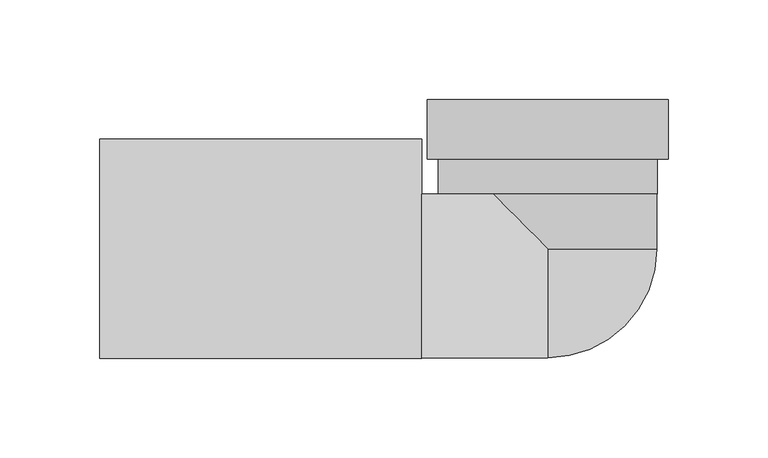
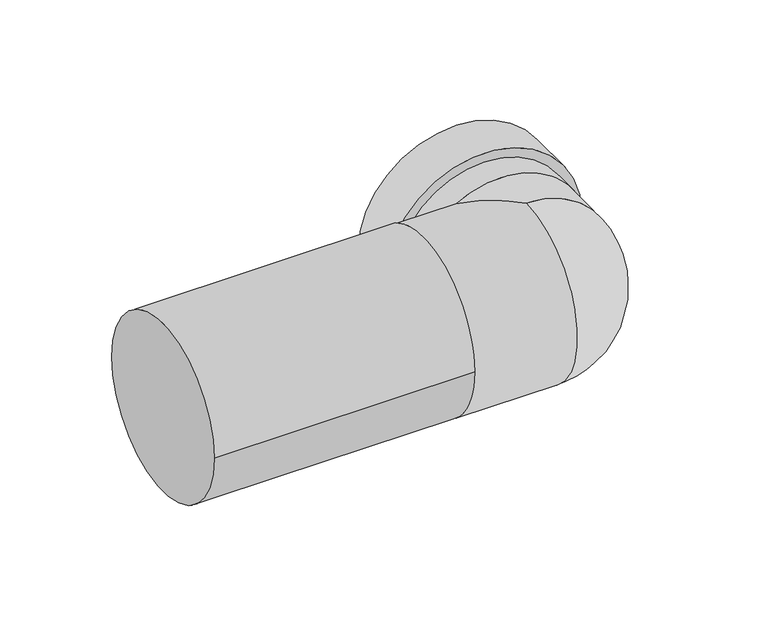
"""IFC4 building model written with IfcOpenShell, lengths in millimetres: pipe fitting geometry, NLRS_52_PIF_UN_PE aansluitbocht 90° voor wand-wc, met korte voorsprong_geb : DN90-100 / ø90-110."""

from ifc_helpers import new_model, si_unit, point, frame, origin, origin_2d, place, context, project, spatial, circle_curve, ellipse_curve, trimmed, segment, composite_curve, outline, extrude, source, transform, mapped, element, save
from ifc_brep_helpers import plane_surface, cylinder_surface, revolved_surface, advanced_brep


def pipe_fitting_5c974b61(model_context):
    return source(origin(), model_context, "Body", "SolidModel", [
        extrude(outline(composite_curve([segment(trimmed(circle_curve(origin_2d(), 60.5), [point((0.0, 60.5))], [point((0.0, -60.5))], False, "CARTESIAN"), True, "CONTINUOUS"), segment(trimmed(circle_curve(origin_2d(), 60.5), [point((0.0, -60.5))], [point((0.0, 60.5))], False, "CARTESIAN"), True, "CONTINUOUS")], self_intersect=False)), frame((0.0, 45.0, 0.0), z_axis=(0.0, 1.0, 0.0), x_axis=(0.0, 0.0, 1.0)), (0.0, 0.0, 1.0), 30.0),
        advanced_brep(
        [(-27.5, 27.5, -47.6313972), (-63.3333333, 27.5, -47.6313972), (-63.3333333, 27.5, 47.6313972), (-27.5, 27.5, 47.6313972), (-55.0, 27.5, 0.0), (0.0, 0.0, -55.0), (0.0, 0.0, 55.0), (-63.3333333, -55.0, 0.0), (55.0, 27.5, 0.0), (55.0, 45.0, 0.0), (-55.0, 45.0, 0.0), (-225.0, -55.0, 0.0), (-225.0, 55.0, 0.0), (-63.3333333, 55.0, 0.0)],
        [
            (0, 1),
            (1, 2),
            (2, 3),
            (3, 4, circle_curve(frame((0.0, 27.5, 0.0), z_axis=(0.0, -1.0, 0.0), x_axis=(-1.0, 0.0, 0.0)), 55.0)),
            (4, 0, circle_curve(frame((0.0, 27.5, 0.0), z_axis=(0.0, -1.0, 0.0), x_axis=(-1.0, 0.0, 0.0)), 55.0)),
            (0, 5, ellipse_curve(frame((0.0, 0.0, 0.0), z_axis=(-0.7071067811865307, -0.7071067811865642, 0.0), x_axis=(0.7071067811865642, -0.7071067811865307, 0.0)), 77.7817459, 55.0)),
            (5, 6, circle_curve(frame((0.0, 0.0, 0.0), z_axis=(-1.0, 0.0, 0.0), x_axis=(0.0, 1.0, 0.0)), 55.0)),
            (6, 3, ellipse_curve(frame((0.0, 0.0, 0.0), z_axis=(-0.7071067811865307, -0.7071067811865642, 0.0), x_axis=(0.7071067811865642, -0.7071067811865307, 0.0)), 77.7817459, 55.0)),
            (2, 7, circle_curve(frame((-63.3333333, 0.0, 0.0), z_axis=(1.0, 0.0, 0.0), x_axis=(0.0, 1.0, 0.0)), 55.0)),
            (7, 1, circle_curve(frame((-63.3333333, 0.0, 0.0), z_axis=(1.0, 0.0, 0.0), x_axis=(0.0, 1.0, 0.0)), 55.0)),
            (6, 5, circle_curve(frame((0.0, 0.0, 0.0), z_axis=(0.0, 1.0, 0.0), x_axis=(-1.0, 0.0, 0.0)), 55.0)),
            (0, 8, circle_curve(frame((0.0, 27.5, 0.0), z_axis=(0.0, -1.0, 0.0), x_axis=(-1.0, 0.0, 0.0)), 55.0)),
            (8, 3, circle_curve(frame((0.0, 27.5, 0.0), z_axis=(0.0, -1.0, 0.0), x_axis=(-1.0, 0.0, 0.0)), 55.0)),
            (9, 10, circle_curve(frame((0.0, 45.0, 0.0), z_axis=(0.0, 1.0, 0.0), x_axis=(-1.0, 0.0, 0.0)), 55.0)),
            (10, 9, circle_curve(frame((0.0, 45.0, 0.0), z_axis=(0.0, 1.0, 0.0), x_axis=(-1.0, 0.0, 0.0)), 55.0)),
            (10, 4),
            (8, 9),
            (11, 12, circle_curve(frame((-225.0, 0.0, 0.0), z_axis=(-1.0, 0.0, 0.0), x_axis=(0.0, 1.0, 0.0)), 55.0)),
            (12, 11, circle_curve(frame((-225.0, 0.0, 0.0), z_axis=(-1.0, 0.0, 0.0), x_axis=(0.0, 1.0, 0.0)), 55.0)),
            (1, 13, circle_curve(frame((-63.3333333, 0.0, 0.0), z_axis=(1.0, 0.0, 0.0), x_axis=(0.0, 1.0, 0.0)), 55.0)),
            (13, 2, circle_curve(frame((-63.3333333, 0.0, 0.0), z_axis=(1.0, 0.0, 0.0), x_axis=(0.0, 1.0, 0.0)), 55.0)),
            (12, 13),
            (7, 11),
        ],
        [
            plane_surface(frame((0.0, 27.5, -47.6313972), z_axis=(0.0, 1.0, 0.0), x_axis=(-1.0, 0.0, 0.0))),
            cylinder_surface(frame((-63.3333333, 0.0, 0.0), z_axis=(1.0, 0.0, 0.0), x_axis=(0.0, 1.0, 0.0)), 55.0),
            cylinder_surface(frame((0.0, 0.0, 0.0), z_axis=(0.0, -1.0, 0.0), x_axis=(-1.0, 0.0, 0.0)), 55.0),
            revolved_surface(trimmed(ellipse_curve(frame((0.0, 0.0, 0.0), z_axis=(1.0, 0.0, 0.0), x_axis=(0.0, 1.0, 0.0)), 55.0, 55.0), [point((0.0, 0.0, 55.0))], [point((0.0, 0.0, -55.0))], True, "CARTESIAN"), (0.0, 0.0, 80.0), (0.0, 0.0, -1.0)),
            plane_surface(frame((0.0, 45.0, 0.0), z_axis=(0.0, 1.0, 0.0), x_axis=(0.0, 0.0, 1.0))),
            cylinder_surface(frame((0.0, 27.5, 0.0), z_axis=(0.0, -1.0, 0.0), x_axis=(-1.0, 0.0, 0.0)), 55.0),
            plane_surface(frame((-225.0, 55.0, 0.0), z_axis=(-1.0, 0.0, 0.0), x_axis=(0.0, 0.0, -1.0))),
            plane_surface(frame((-63.3333333, 55.0, 0.0), z_axis=(1.0, 0.0, 0.0), x_axis=(0.0, 0.0, 1.0))),
            cylinder_surface(frame((-225.0, 0.0, 0.0), z_axis=(1.0, 0.0, 0.0), x_axis=(0.0, 1.0, 0.0)), 55.0),
        ],
        [
            (0, [[1, 2, 3, 4, 5]]),
            (1, [[-1, 6, 7, 8, -3, 9, 10]]),
            (2, [[-8, 11, -6, 12, 13]]),
            (3, [[-7, -11]]),
            (4, [[14, 15]]),
            (5, [[-15, 16, -4, -13, 17]]),
            (5, [[-14, -17, -12, -5, -16]]),
            (6, [[18, 19]]),
            (7, [[20, 21, -2]]),
            (8, [[-19, 22, -20, -10, 23]]),
            (8, [[-18, -23, -9, -21, -22]]),
        ],
    ),
    ])


if __name__ == "__main__":
    model = new_model("IFC4")
    model_context = context("Model", 3, world=origin())
    ifc_project = project(units=[si_unit("LENGTHUNIT", "METRE", prefix="MILLI")], contexts=[model_context])
    site = spatial("IfcSite", under=ifc_project)
    building = spatial("IfcBuilding", under=site)
    placement = place(None, origin())
    pipe_fitting_shape = pipe_fitting_5c974b61(model_context)
    element("IfcPipeFitting", 1, ObjectType="NLRS_52_PIF_UN_PE aansluitbocht 90° voor wand-wc, met korte voorsprong_geb : DN90-100 / ø90-110", at=placement, inside=building, context=model_context, shape_type="MappedRepresentation", body=[
        mapped(pipe_fitting_shape, transform((0.0, 0.0, 0.0), x_axis=(1.0, 0.0, 0.0), y_axis=(0.0, 1.0, 0.0), z_axis=(0.0, 0.0, 1.0))),
    ])
    save(model, "model.ifc")
